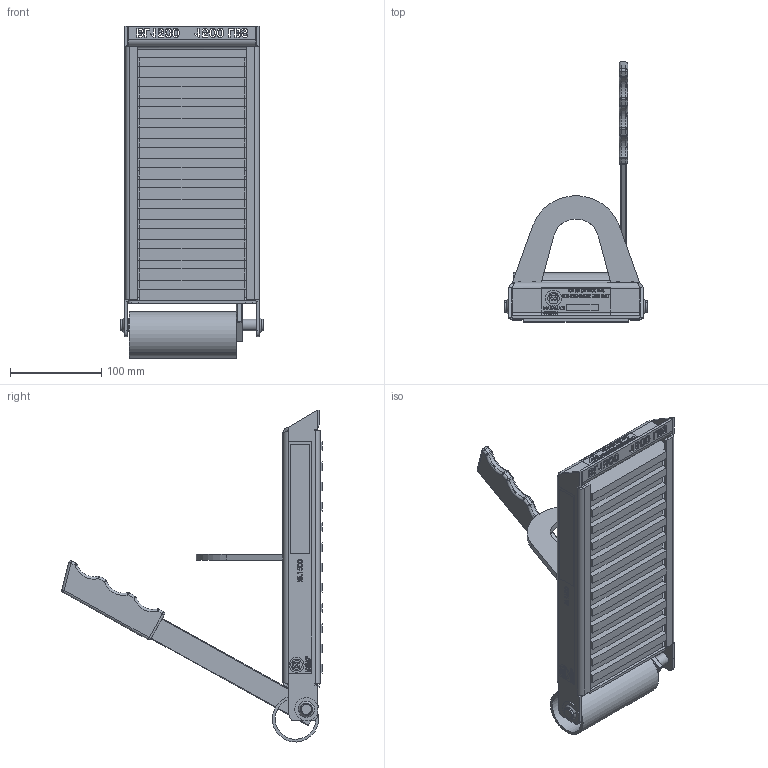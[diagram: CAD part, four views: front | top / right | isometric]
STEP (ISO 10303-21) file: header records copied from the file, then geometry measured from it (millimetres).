
FILE_DESCRIPTION (( 'STEP AP203' ), '1' );
FILE_NAME ('BL1500.STEP', '2018-08-21T20:20:48', ( '' ), ( '' ), 'SwSTEP 2.0', 'SolidWorks 2015', '' );
FILE_SCHEMA (( 'CONFIG_CONTROL_DESIGN' ));
Length unit declared in the file: inch
Products named in the file (1): BL1500
Bounding box: 157.96 x 285.62 x 364.49 mm (x, y, z)
Volume: 1554236.6 mm3; surface area: 595622.5 mm2
Topology: 37 solids, 37 shells, 2279 faces, 5938 edges, 3910 vertices
Faces by surface type: plane 1606, bspline 451, cylinder 174, sphere 20, cone 18, torus 10
Entity records: 99447 total; most frequent: CARTESIAN_POINT 46185, ORIENTED_EDGE 11864, DIRECTION 9044, EDGE_CURVE 5932, LINE 4646, VECTOR 4646, VERTEX_POINT 3908, EDGE_LOOP 2516
